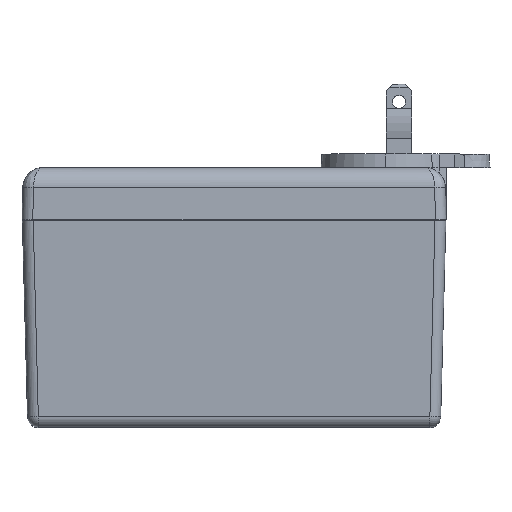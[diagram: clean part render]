
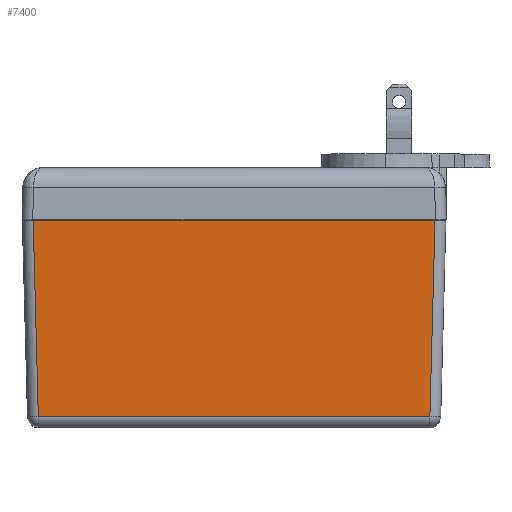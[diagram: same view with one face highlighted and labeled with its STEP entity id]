
A CAD part, top view. The second image highlights one B-rep face of the part: STEP entity #7400.
In plain terms, the highlighted planar face has unit normal (0, -0.026, 1).
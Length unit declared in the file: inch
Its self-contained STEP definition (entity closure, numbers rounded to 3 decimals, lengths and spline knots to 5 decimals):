
#289 = EDGE_LOOP ( 'NONE', ( #16407, #16409, #16410, #16413 ) ) ;
#1141 = DIRECTION ( 'NONE',  ( 1., 0., 0. ) ) ;
#1145 = CARTESIAN_POINT ( 'NONE',  ( -2.0545, 0., 1.116 ) ) ;
#1149 = DIRECTION ( 'NONE',  ( 0.026, -0.999, -0.026 ) ) ;
#1153 = CARTESIAN_POINT ( 'NONE',  ( -1.94961, 0.00274, 1.11607 ) ) ;
#1156 = DIRECTION ( 'NONE',  ( 0.026, 0.999, 0.026 ) ) ;
#1157 = CARTESIAN_POINT ( 'NONE',  ( 1.94679, -0.10471, 1.11326 ) ) ;
#1294 = DIRECTION ( 'NONE',  ( 1., 0., 0. ) ) ;
#1321 = CARTESIAN_POINT ( 'NONE',  ( -2.0545, -1.90275, 1.06617 ) ) ;
#3678 = CARTESIAN_POINT ( 'NONE',  ( 1.89971, -1.90275, 1.06617 ) ) ;
#3732 = CARTESIAN_POINT ( 'NONE',  ( -1.89971, -1.90275, 1.06617 ) ) ;
#4440 = VERTEX_POINT ( 'NONE', #3732 ) ;
#4489 = VERTEX_POINT ( 'NONE', #3678 ) ;
#5036 = VERTEX_POINT ( 'NONE', #13359 ) ;
#5042 = VERTEX_POINT ( 'NONE', #13347 ) ;
#5407 = VECTOR ( 'NONE', #1141, 39.37008 ) ;
#5408 = LINE ( 'NONE', #1145, #5407 ) ;
#5409 = VECTOR ( 'NONE', #1149, 39.37008 ) ;
#5410 = LINE ( 'NONE', #1153, #5409 ) ;
#5412 = VECTOR ( 'NONE', #1156, 39.37008 ) ;
#5413 = LINE ( 'NONE', #1157, #5412 ) ;
#5441 = LINE ( 'NONE', #1321, #5445 ) ;
#5445 = VECTOR ( 'NONE', #1294, 39.37008 ) ;
#7400 = ADVANCED_FACE ( 'NONE', ( #11623 ), #13109, .T. ) ;
#9334 = AXIS2_PLACEMENT_3D ( 'NONE', #13110, #13105, #13104 ) ;
#11623 = FACE_OUTER_BOUND ( 'NONE', #289, .T. ) ;
#11688 = EDGE_CURVE ( 'NONE', #4440, #4489, #5441, .T. ) ;
#11702 = EDGE_CURVE ( 'NONE', #4489, #5042, #5413, .T. ) ;
#11703 = EDGE_CURVE ( 'NONE', #5036, #4440, #5410, .T. ) ;
#11704 = EDGE_CURVE ( 'NONE', #5036, #5042, #5408, .T. ) ;
#13104 = DIRECTION ( 'NONE',  ( 0., -1., -0.026 ) ) ;
#13105 = DIRECTION ( 'NONE',  ( 0., -0.026, 1. ) ) ;
#13109 = PLANE ( 'NONE',  #9334 ) ;
#13110 = CARTESIAN_POINT ( 'NONE',  ( -2.0545, 0., 1.116 ) ) ;
#13347 = CARTESIAN_POINT ( 'NONE',  ( 1.94954, 0., 1.116 ) ) ;
#13359 = CARTESIAN_POINT ( 'NONE',  ( -1.94954, 0., 1.116 ) ) ;
#16407 = ORIENTED_EDGE ( 'NONE', *, *, #11688, .T. ) ;
#16409 = ORIENTED_EDGE ( 'NONE', *, *, #11702, .T. ) ;
#16410 = ORIENTED_EDGE ( 'NONE', *, *, #11704, .F. ) ;
#16413 = ORIENTED_EDGE ( 'NONE', *, *, #11703, .T. ) ;
